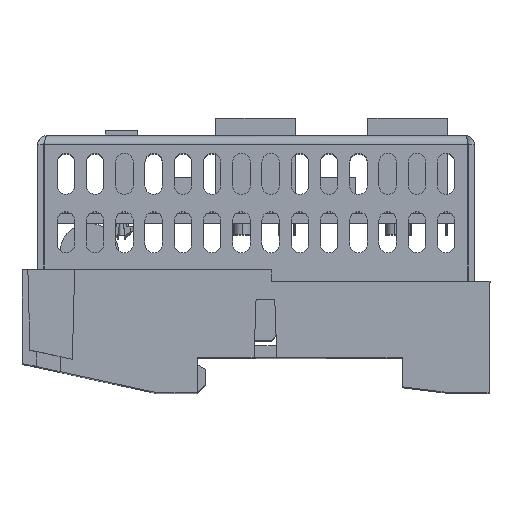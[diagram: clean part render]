
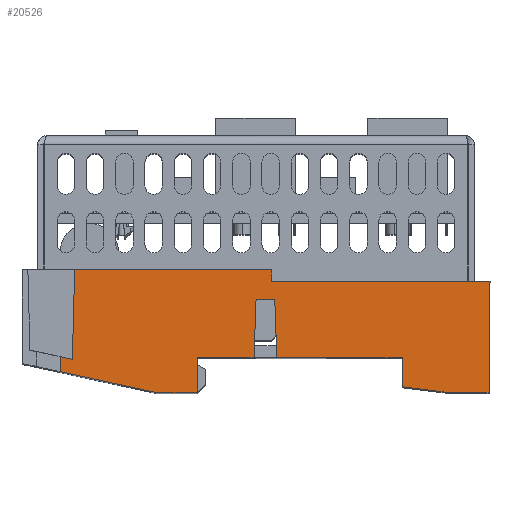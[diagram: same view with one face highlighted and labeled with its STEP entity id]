
A CAD part, top view. The second image highlights one B-rep face of the part: STEP entity #20526.
In plain terms, the highlighted planar face has unit normal (0, -0.009, 1).
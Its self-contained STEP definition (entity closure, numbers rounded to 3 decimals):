
#153 = VERTEX_POINT ( 'NONE', #36825 ) ;
#247 = ORIENTED_EDGE ( 'NONE', *, *, #27760, .T. ) ;
#621 = CARTESIAN_POINT ( 'NONE',  ( 40., -5., 48.956 ) ) ;
#1299 = DIRECTION ( 'NONE',  ( 0.009, 1., 0.009 ) ) ;
#1699 = CARTESIAN_POINT ( 'NONE',  ( 0., 0., 49. ) ) ;
#2258 = EDGE_CURVE ( 'NONE', #18405, #40147, #9878, .T. ) ;
#3836 = ORIENTED_EDGE ( 'NONE', *, *, #33701, .T. ) ;
#3941 = ORIENTED_EDGE ( 'NONE', *, *, #32318, .T. ) ;
#4006 = CARTESIAN_POINT ( 'NONE',  ( 43.549, -15., 48.869 ) ) ;
#4743 = EDGE_CURVE ( 'NONE', #44941, #42972, #48515, .T. ) ;
#5297 = VECTOR ( 'NONE', #21233, 1000. ) ;
#5505 = DIRECTION ( 'NONE',  ( 0., -1., -0.009 ) ) ;
#7486 = DIRECTION ( 'NONE',  ( 0.035, 0.999, 0.009 ) ) ;
#7496 = VECTOR ( 'NONE', #33752, 1000. ) ;
#8130 = VERTEX_POINT ( 'NONE', #44160 ) ;
#8317 = LINE ( 'NONE', #10333, #17133 ) ;
#8633 = LINE ( 'NONE', #15229, #17451 ) ;
#8745 = CARTESIAN_POINT ( 'NONE',  ( 6.5, -14.855, 48.87 ) ) ;
#8879 = EDGE_CURVE ( 'NONE', #40147, #16500, #22239, .T. ) ;
#8987 = LINE ( 'NONE', #27500, #16611 ) ;
#9137 = EDGE_CURVE ( 'NONE', #8130, #30476, #39836, .T. ) ;
#9165 = EDGE_CURVE ( 'NONE', #28939, #32778, #8633, .T. ) ;
#9534 = CARTESIAN_POINT ( 'NONE',  ( 64.948, -15., 48.869 ) ) ;
#9550 = ORIENTED_EDGE ( 'NONE', *, *, #37613, .T. ) ;
#9878 = LINE ( 'NONE', #37551, #7496 ) ;
#10060 = VERTEX_POINT ( 'NONE', #25181 ) ;
#10122 = VERTEX_POINT ( 'NONE', #14318 ) ;
#10144 = VECTOR ( 'NONE', #47421, 1000. ) ;
#10333 = CARTESIAN_POINT ( 'NONE',  ( 6.5, 0., 49. ) ) ;
#10656 = VECTOR ( 'NONE', #28771, 1000. ) ;
#11166 = DIRECTION ( 'NONE',  ( 1., 0., 0. ) ) ;
#12211 = VECTOR ( 'NONE', #11166, 1000. ) ;
#12661 = ORIENTED_EDGE ( 'NONE', *, *, #27678, .F. ) ;
#14011 = CARTESIAN_POINT ( 'NONE',  ( 30.052, -15., 48.869 ) ) ;
#14183 = VECTOR ( 'NONE', #21955, 1000. ) ;
#14318 = CARTESIAN_POINT ( 'NONE',  ( 8.599, -15.311, 48.866 ) ) ;
#14421 = EDGE_CURVE ( 'NONE', #32778, #23956, #15277, .T. ) ;
#14555 = CARTESIAN_POINT ( 'NONE',  ( 8.994, -0.235, 48.998 ) ) ;
#15229 = CARTESIAN_POINT ( 'NONE',  ( 0., -15., 48.869 ) ) ;
#15277 = LINE ( 'NONE', #30058, #25306 ) ;
#15344 = LINE ( 'NONE', #33165, #14183 ) ;
#15451 = VECTOR ( 'NONE', #38521, 1000. ) ;
#16234 = EDGE_CURVE ( 'NONE', #44941, #153, #15344, .T. ) ;
#16500 = VERTEX_POINT ( 'NONE', #31992 ) ;
#16539 = LINE ( 'NONE', #47943, #45365 ) ;
#16611 = VECTOR ( 'NONE', #1299, 1000. ) ;
#16669 = VECTOR ( 'NONE', #38745, 1000. ) ;
#17133 = VECTOR ( 'NONE', #40431, 1000. ) ;
#17316 = CARTESIAN_POINT ( 'NONE',  ( 73., -21., 48.817 ) ) ;
#17451 = VECTOR ( 'NONE', #19018, 1000. ) ;
#18232 = FACE_OUTER_BOUND ( 'NONE', #35796, .T. ) ;
#18405 = VERTEX_POINT ( 'NONE', #37072 ) ;
#18463 = DIRECTION ( 'NONE',  ( 0.009, 1., 0.009 ) ) ;
#19018 = DIRECTION ( 'NONE',  ( 1., 0., 0. ) ) ;
#19058 = ORIENTED_EDGE ( 'NONE', *, *, #9137, .T. ) ;
#19249 = CARTESIAN_POINT ( 'NONE',  ( 39.651, -15., 48.869 ) ) ;
#19303 = DIRECTION ( 'NONE',  ( -0.009, 1., 0.009 ) ) ;
#19823 = VECTOR ( 'NONE', #37633, 1000. ) ;
#19974 = CARTESIAN_POINT ( 'NONE',  ( 64.812, 0.566, 49.005 ) ) ;
#20394 = CARTESIAN_POINT ( 'NONE',  ( -1.462, -11.692, 48.898 ) ) ;
#20495 = ORIENTED_EDGE ( 'NONE', *, *, #47797, .T. ) ;
#20526 = ADVANCED_FACE ( 'NONE', ( #18232 ), #31711, .T. ) ;
#20722 = ORIENTED_EDGE ( 'NONE', *, *, #24035, .T. ) ;
#21144 = LINE ( 'NONE', #31201, #39983 ) ;
#21210 = CARTESIAN_POINT ( 'NONE',  ( 0., -5., 48.956 ) ) ;
#21233 = DIRECTION ( 'NONE',  ( -1., 0., 0. ) ) ;
#21955 = DIRECTION ( 'NONE',  ( 1., 0., 0. ) ) ;
#22239 = LINE ( 'NONE', #29935, #12211 ) ;
#23956 = VERTEX_POINT ( 'NONE', #621 ) ;
#24035 = EDGE_CURVE ( 'NONE', #26760, #153, #39603, .T. ) ;
#24112 = CARTESIAN_POINT ( 'NONE',  ( 42.717, -2., 48.983 ) ) ;
#24167 = LINE ( 'NONE', #43756, #5297 ) ;
#24616 = CARTESIAN_POINT ( 'NONE',  ( 23., -21., 48.817 ) ) ;
#25181 = CARTESIAN_POINT ( 'NONE',  ( 43.2, -5., 48.956 ) ) ;
#25306 = VECTOR ( 'NONE', #7486, 1000. ) ;
#26196 = ORIENTED_EDGE ( 'NONE', *, *, #8879, .T. ) ;
#26760 = VERTEX_POINT ( 'NONE', #45431 ) ;
#26892 = ORIENTED_EDGE ( 'NONE', *, *, #9165, .T. ) ;
#26950 = ORIENTED_EDGE ( 'NONE', *, *, #2258, .T. ) ;
#27138 = EDGE_CURVE ( 'NONE', #43850, #10122, #40178, .T. ) ;
#27500 = CARTESIAN_POINT ( 'NONE',  ( 30.181, -0.263, 48.998 ) ) ;
#27678 = EDGE_CURVE ( 'NONE', #10060, #23956, #31896, .T. ) ;
#27760 = EDGE_CURVE ( 'NONE', #43850, #18405, #8317, .T. ) ;
#28067 = DIRECTION ( 'NONE',  ( 0., -0.009, 1. ) ) ;
#28771 = DIRECTION ( 'NONE',  ( -1., 0., 0. ) ) ;
#28939 = VERTEX_POINT ( 'NONE', #14011 ) ;
#29935 = CARTESIAN_POINT ( 'NONE',  ( 0., -21., 48.817 ) ) ;
#30029 = ORIENTED_EDGE ( 'NONE', *, *, #43519, .T. ) ;
#30058 = CARTESIAN_POINT ( 'NONE',  ( 40.126, -1.401, 48.988 ) ) ;
#30476 = VERTEX_POINT ( 'NONE', #17316 ) ;
#31201 = CARTESIAN_POINT ( 'NONE',  ( 0., -21., 48.817 ) ) ;
#31711 = PLANE ( 'NONE',  #34824 ) ;
#31896 = LINE ( 'NONE', #21210, #10656 ) ;
#31992 = CARTESIAN_POINT ( 'NONE',  ( 30., -21., 48.817 ) ) ;
#32066 = EDGE_CURVE ( 'NONE', #47988, #8130, #36723, .T. ) ;
#32203 = VERTEX_POINT ( 'NONE', #39697 ) ;
#32318 = EDGE_CURVE ( 'NONE', #16500, #28939, #8987, .T. ) ;
#32778 = VERTEX_POINT ( 'NONE', #19249 ) ;
#33165 = CARTESIAN_POINT ( 'NONE',  ( 80., -2., 48.983 ) ) ;
#33175 = DIRECTION ( 'NONE',  ( -0.026, -1., -0.009 ) ) ;
#33460 = CARTESIAN_POINT ( 'NONE',  ( 79.994, -0.698, 48.994 ) ) ;
#33578 = LINE ( 'NONE', #14555, #43578 ) ;
#33701 = EDGE_CURVE ( 'NONE', #32203, #10122, #33578, .T. ) ;
#33752 = DIRECTION ( 'NONE',  ( 0.977, -0.212, -0.002 ) ) ;
#34735 = CARTESIAN_POINT ( 'NONE',  ( 0., -15., 48.869 ) ) ;
#34824 = AXIS2_PLACEMENT_3D ( 'NONE', #1699, #28067, #5505 ) ;
#34989 = DIRECTION ( 'NONE',  ( 1., 0., 0. ) ) ;
#35796 = EDGE_LOOP ( 'NONE', ( #46060, #247, #26950, #26196, #3941, #26892, #41415, #12661, #30029, #20495, #44802, #19058, #9550, #20722, #42647, #40446, #46489, #3836 ) ) ;
#36723 = LINE ( 'NONE', #19974, #16669 ) ;
#36825 = CARTESIAN_POINT ( 'NONE',  ( 79.983, -2., 48.983 ) ) ;
#37072 = CARTESIAN_POINT ( 'NONE',  ( 6.5, -17.413, 48.848 ) ) ;
#37528 = VERTEX_POINT ( 'NONE', #4006 ) ;
#37551 = CARTESIAN_POINT ( 'NONE',  ( -3.322, -15.278, 48.867 ) ) ;
#37613 = EDGE_CURVE ( 'NONE', #30476, #26760, #21144, .T. ) ;
#37633 = DIRECTION ( 'NONE',  ( 0.992, -0.124, -0.001 ) ) ;
#38521 = DIRECTION ( 'NONE',  ( 1., 0., 0. ) ) ;
#38745 = DIRECTION ( 'NONE',  ( 0.009, -1., -0.009 ) ) ;
#39603 = LINE ( 'NONE', #33460, #47260 ) ;
#39697 = CARTESIAN_POINT ( 'NONE',  ( 9., 0., 49. ) ) ;
#39836 = LINE ( 'NONE', #20394, #19823 ) ;
#39983 = VECTOR ( 'NONE', #34989, 1000. ) ;
#40147 = VERTEX_POINT ( 'NONE', #24616 ) ;
#40178 = LINE ( 'NONE', #43606, #10144 ) ;
#40431 = DIRECTION ( 'NONE',  ( 0., -1., -0.009 ) ) ;
#40446 = ORIENTED_EDGE ( 'NONE', *, *, #4743, .T. ) ;
#41415 = ORIENTED_EDGE ( 'NONE', *, *, #14421, .T. ) ;
#41803 = CARTESIAN_POINT ( 'NONE',  ( 42.707, -0.855, 48.993 ) ) ;
#42647 = ORIENTED_EDGE ( 'NONE', *, *, #16234, .F. ) ;
#42972 = VERTEX_POINT ( 'NONE', #47416 ) ;
#43519 = EDGE_CURVE ( 'NONE', #10060, #37528, #16539, .T. ) ;
#43578 = VECTOR ( 'NONE', #33175, 1000. ) ;
#43606 = CARTESIAN_POINT ( 'NONE',  ( -2.79, -12.835, 48.888 ) ) ;
#43756 = CARTESIAN_POINT ( 'NONE',  ( 0., 0., 49. ) ) ;
#43826 = VECTOR ( 'NONE', #19303, 1000. ) ;
#43850 = VERTEX_POINT ( 'NONE', #8745 ) ;
#43996 = EDGE_CURVE ( 'NONE', #42972, #32203, #24167, .T. ) ;
#44160 = CARTESIAN_POINT ( 'NONE',  ( 64.991, -19.999, 48.825 ) ) ;
#44295 = DIRECTION ( 'NONE',  ( 0.035, -0.999, -0.009 ) ) ;
#44802 = ORIENTED_EDGE ( 'NONE', *, *, #32066, .T. ) ;
#44941 = VERTEX_POINT ( 'NONE', #24112 ) ;
#45365 = VECTOR ( 'NONE', #44295, 1000. ) ;
#45431 = CARTESIAN_POINT ( 'NONE',  ( 79.817, -21., 48.817 ) ) ;
#46060 = ORIENTED_EDGE ( 'NONE', *, *, #27138, .F. ) ;
#46489 = ORIENTED_EDGE ( 'NONE', *, *, #43996, .T. ) ;
#46687 = LINE ( 'NONE', #34735, #15451 ) ;
#47260 = VECTOR ( 'NONE', #18463, 1000. ) ;
#47416 = CARTESIAN_POINT ( 'NONE',  ( 42.7, 0., 49. ) ) ;
#47421 = DIRECTION ( 'NONE',  ( 0.977, -0.212, -0.002 ) ) ;
#47797 = EDGE_CURVE ( 'NONE', #37528, #47988, #46687, .T. ) ;
#47943 = CARTESIAN_POINT ( 'NONE',  ( 42.973, 1.501, 49.013 ) ) ;
#47988 = VERTEX_POINT ( 'NONE', #9534 ) ;
#48515 = LINE ( 'NONE', #41803, #43826 ) ;
